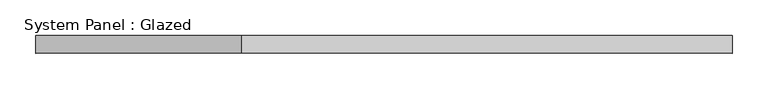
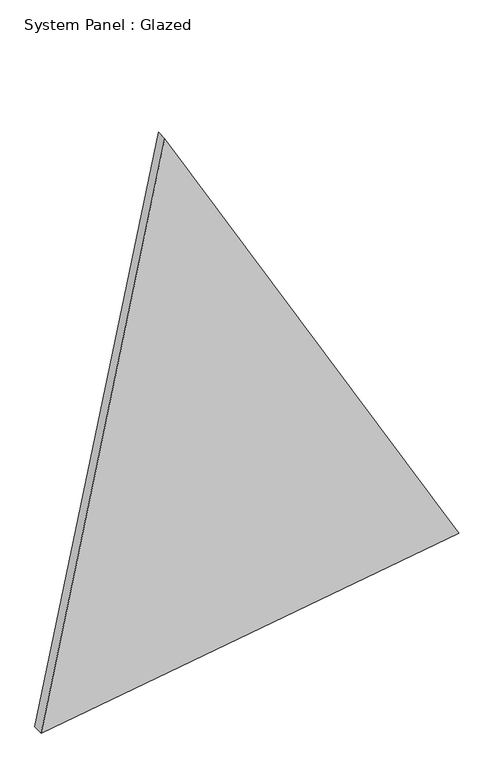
"""IFC4 building model written with IfcOpenShell, lengths in millimetres: plate geometry, System Panel : Glazed."""

from ifc_helpers import new_model, si_unit, frame, origin, place, context, project, spatial, polyline, outline, extrude, source, transform, mapped, element, save


def system_panel_glazed_f44d88c0(model_context):
    return source(origin(), model_context, "Body", "SweptSolid", [
        extrude(outline(polyline([(0.0, -488.745189), (150.8855908, 488.745189), (1367.4588897, -199.435837), (0.0, -488.745189)])), frame((0.0, -49.5, 0.0), z_axis=(0.0, 1.0, 0.0), x_axis=(0.0, 0.0, 1.0)), (0.0, 0.0, 1.0), 25.0),
    ])


if __name__ == "__main__":
    model = new_model("IFC4")
    model_context = context("Model", 3, world=origin())
    ifc_project = project(units=[si_unit("LENGTHUNIT", "METRE", prefix="MILLI")], contexts=[model_context])
    site = spatial("IfcSite", under=ifc_project)
    building = spatial("IfcBuilding", under=site)
    placement = place(None, origin())
    system_panel_glazed_shape = system_panel_glazed_f44d88c0(model_context)
    element("IfcPlate", 1, ObjectType="System Panel : Glazed", at=placement, inside=building, context=model_context, shape_type="MappedRepresentation", body=[
        mapped(system_panel_glazed_shape, transform((0.0, 0.0, 0.0), x_axis=(1.0, 0.0, 0.0), y_axis=(0.0, 1.0, 0.0), z_axis=(0.0, 0.0, 1.0))),
    ])
    save(model, "model.ifc")
